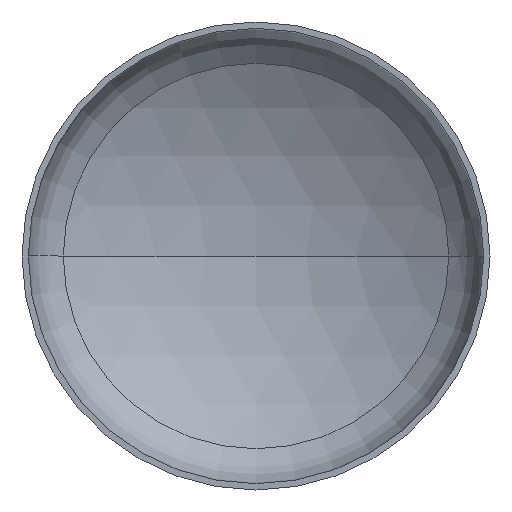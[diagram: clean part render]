
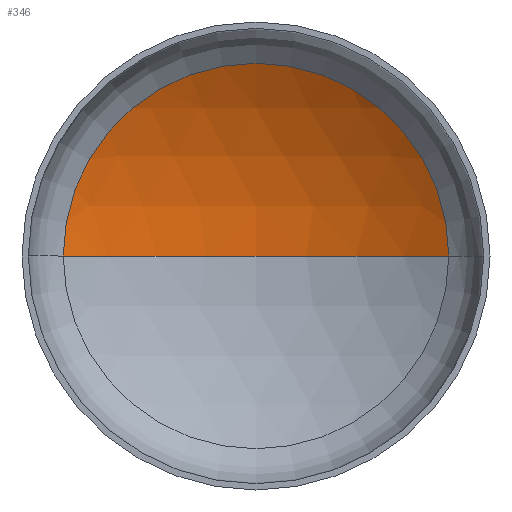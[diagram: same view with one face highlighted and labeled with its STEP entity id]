
A CAD part, front view. The second image highlights one B-rep face of the part: STEP entity #346.
In plain terms, the highlighted spherical face has radius 5200 mm.
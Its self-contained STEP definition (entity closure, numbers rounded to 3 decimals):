
#1 = VERTEX_POINT ( 'NONE', #274 ) ;
#16 = AXIS2_PLACEMENT_3D ( 'NONE', #373, #128, #187 ) ;
#28 = CIRCLE ( 'NONE', #73, 5200. ) ;
#34 = VERTEX_POINT ( 'NONE', #268 ) ;
#69 = AXIS2_PLACEMENT_3D ( 'NONE', #317, #144, #408 ) ;
#73 = AXIS2_PLACEMENT_3D ( 'NONE', #347, #278, #299 ) ;
#80 = AXIS2_PLACEMENT_3D ( 'NONE', #198, #199, #351 ) ;
#112 = VERTEX_POINT ( 'NONE', #245 ) ;
#124 = EDGE_LOOP ( 'NONE', ( #167, #271, #166 ) ) ;
#128 = DIRECTION ( 'NONE',  ( 0., 0., -1. ) ) ;
#144 = DIRECTION ( 'NONE',  ( 0., 0., 1. ) ) ;
#166 = ORIENTED_EDGE ( 'NONE', *, *, #169, .T. ) ;
#167 = ORIENTED_EDGE ( 'NONE', *, *, #174, .F. ) ;
#169 = EDGE_CURVE ( 'NONE', #34, #112, #369, .T. ) ;
#171 = EDGE_CURVE ( 'NONE', #1, #34, #28, .T. ) ;
#174 = EDGE_CURVE ( 'NONE', #1, #112, #305, .T. ) ;
#187 = DIRECTION ( 'NONE',  ( -1., 0., 0. ) ) ;
#198 = CARTESIAN_POINT ( 'NONE',  ( 0., 957.333, 0. ) ) ;
#199 = DIRECTION ( 'NONE',  ( 0., -1., 0. ) ) ;
#216 = SPHERICAL_SURFACE ( 'NONE', #16, 5200. ) ;
#245 = CARTESIAN_POINT ( 'NONE',  ( -2676.762, 957.333, 0. ) ) ;
#268 = CARTESIAN_POINT ( 'NONE',  ( 2676.762, 957.333, 0. ) ) ;
#271 = ORIENTED_EDGE ( 'NONE', *, *, #171, .T. ) ;
#274 = CARTESIAN_POINT ( 'NONE',  ( 0., 1699.201, 0. ) ) ;
#278 = DIRECTION ( 'NONE',  ( 0., 0., -1. ) ) ;
#299 = DIRECTION ( 'NONE',  ( -1., 0., 0. ) ) ;
#305 = CIRCLE ( 'NONE', #69, 5200. ) ;
#317 = CARTESIAN_POINT ( 'NONE',  ( 0., -3500.799, 0. ) ) ;
#346 = ADVANCED_FACE ( 'NONE', ( #400 ), #216, .F. ) ;
#347 = CARTESIAN_POINT ( 'NONE',  ( 0., -3500.799, 0. ) ) ;
#351 = DIRECTION ( 'NONE',  ( 1., 0., 0. ) ) ;
#369 = CIRCLE ( 'NONE', #80, 2676.762 ) ;
#373 = CARTESIAN_POINT ( 'NONE',  ( 0., -3500.799, 0. ) ) ;
#400 = FACE_OUTER_BOUND ( 'NONE', #124, .T. ) ;
#408 = DIRECTION ( 'NONE',  ( 1., 0., 0. ) ) ;
